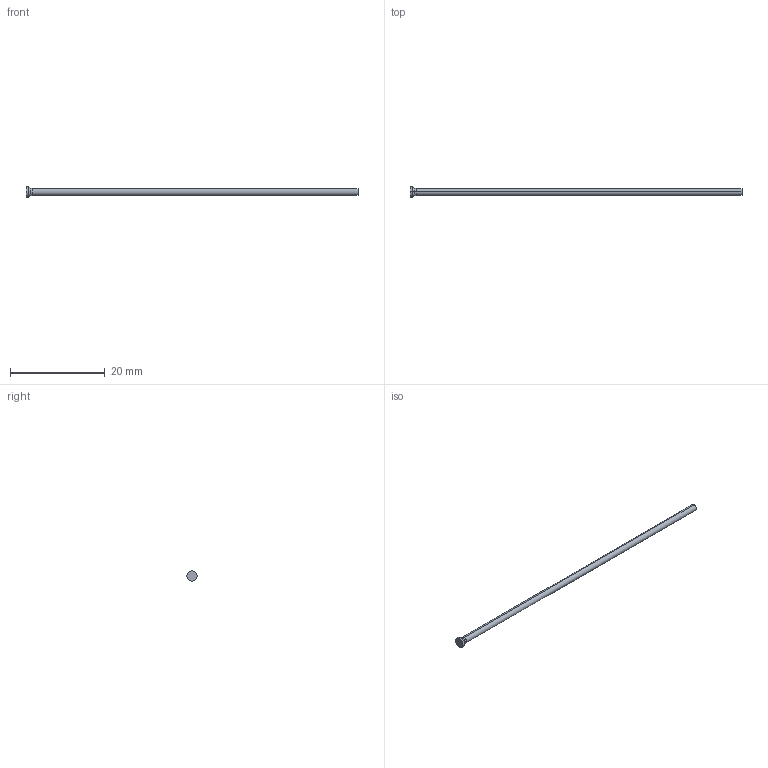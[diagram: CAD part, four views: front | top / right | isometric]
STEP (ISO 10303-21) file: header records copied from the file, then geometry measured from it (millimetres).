
FILE_DESCRIPTION (( 'STEP AP214' ), '1' );
FILE_NAME ('D-1,4x70.STEP', '2020-06-08T09:17:17', ( 'August' ), ( '' ), 'SwSTEP 2.0', 'SolidWorks 2018', '' );
FILE_SCHEMA (( 'AUTOMOTIVE_DESIGN' ));
Length unit declared in the file: millimetre
Products named in the file (1): D-1,4x70
Bounding box: 70 x 2.2 x 2.2 mm (x, y, z)
Volume: 109.6 mm3; surface area: 315.9 mm2
Topology: 1 solids, 1 shells, 10 faces, 18 edges, 10 vertices
Faces by surface type: cylinder 4, torus 2, cone 2, plane 2
Entity records: 280 total; most frequent: DIRECTION 52, CARTESIAN_POINT 39, ORIENTED_EDGE 36, AXIS2_PLACEMENT_3D 23, EDGE_CURVE 18, CIRCLE 12, EDGE_LOOP 10, ADVANCED_FACE 10
